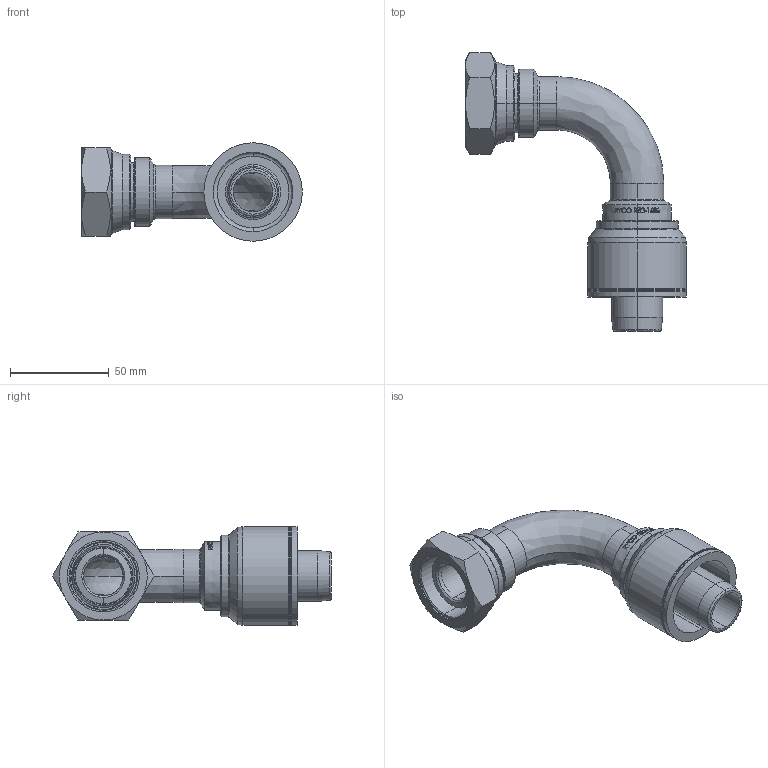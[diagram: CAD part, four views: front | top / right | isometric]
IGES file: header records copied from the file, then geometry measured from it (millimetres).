
Start section: SolidWorks IGES file using analytic representation for surfaces
Global section: file name: X:\SolidWorks\Solidworks models-to be checked\Customer Part Models\T252-1636.IGS; native system: SolidWorks 2010; preprocessor: SolidWorks 2010; author: MKitchenham; date: 120322.151049; units: millimetre
Bounding box: 111.49 x 140.89 x 49.77 mm (x, y, z)
Volume: 95872.9 mm3; surface area: 47714 mm2
Topology: 3 solids, 3 shells, 310 faces, 745 edges, 464 vertices
Faces by surface type: revolution 154, bspline 96, plane 60
